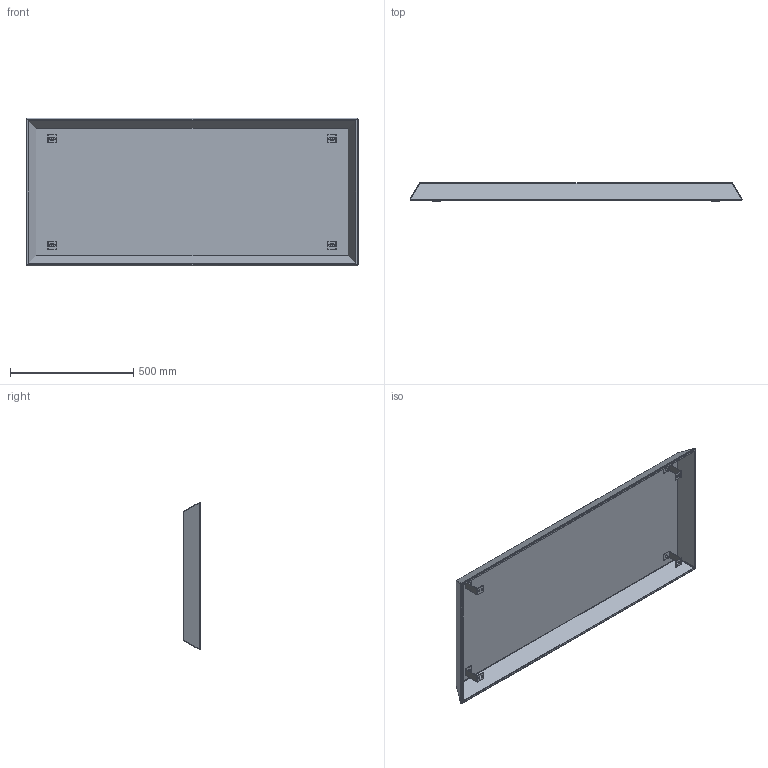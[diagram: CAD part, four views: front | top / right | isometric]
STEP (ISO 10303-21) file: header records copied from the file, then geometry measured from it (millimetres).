
FILE_DESCRIPTION (( 'STEP AP203' ), '1' );
FILE_NAME ('青蜞1200x500(258958).STEP', '2018-07-24T06:11:22', ( '' ), ( '' ), 'SwSTEP 2.0', 'SolidWorks 2018', '' );
FILE_SCHEMA (( 'CONFIG_CONTROL_DESIGN' ));
Length unit declared in the file: millimetre
Products named in the file (8): Ñêîáà; Çàùèòà1200x500(258958); Êðûøà1200x500
Assembly tree (5 placements, depth 2):
  Ñêîáà
  Çàùèòà1200x500(258958)
    Êðûøà1200x500
    Ñêîáà  x4
  Ñêîáà
  Ñêîáà
  Ñêîáà
Bounding box: 1348.6 x 73 x 598.61 mm (x, y, z)
Volume: 2005232.1 mm3; surface area: 2016788 mm2
Topology: 5 solids, 5 shells, 166 faces, 370 edges, 212 vertices
Faces by surface type: plane 100, cylinder 56, sphere 10
Entity records: 2868 total; most frequent: DIRECTION 407, CARTESIAN_POINT 353, ORIENTED_EDGE 334, EDGE_CURVE 167, AXIS2_PLACEMENT_3D 152, VECTOR 103, LINE 103, VERTEX_POINT 98
